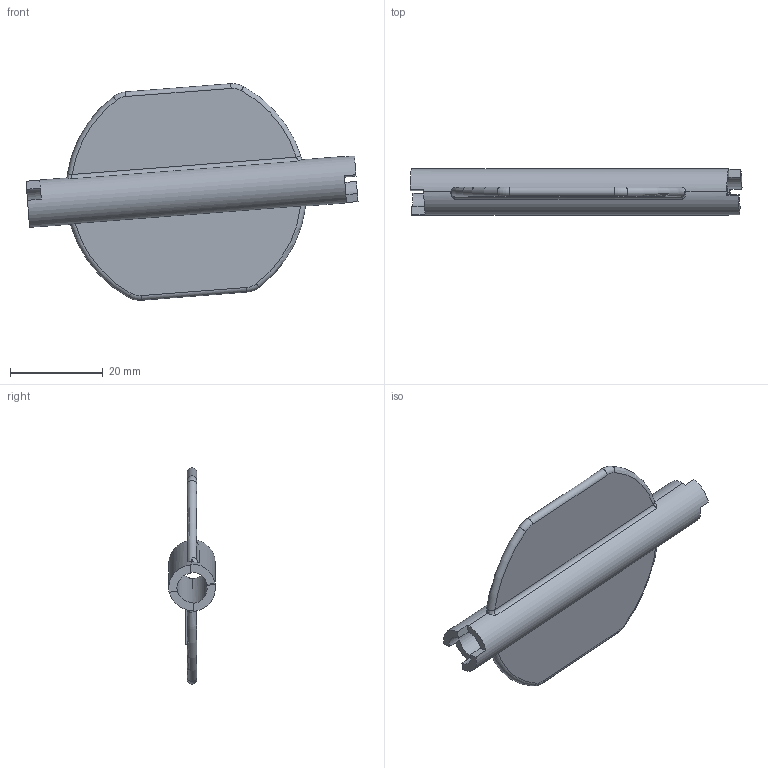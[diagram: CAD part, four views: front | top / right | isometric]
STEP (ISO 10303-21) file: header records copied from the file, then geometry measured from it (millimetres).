
FILE_DESCRIPTION((''),'2;1');
FILE_NAME('0000237100_PRT','2025-11-12T18:35:37',('Wyndorps'),(''),'CREO PARAMETRIC BY PTC INC, 2025010','CREO PARAMETRIC BY PTC INC, 2025010','');
FILE_SCHEMA(('CONFIG_CONTROL_DESIGN'));
Length unit declared in the file: millimetre
Products named in the file (1): 0000237100_PRT
Bounding box: 71.41 x 10 x 46.57 mm (x, y, z)
Volume: 6011.1 mm3; surface area: 6597.4 mm2
Topology: 1 solids, 1 shells, 97 faces, 265 edges, 174 vertices
Faces by surface type: plane 61, extrusion 12, cylinder 12, torus 8, bspline 4
Entity records: 3490 total; most frequent: CARTESIAN_POINT 1037, ORIENTED_EDGE 530, DIRECTION 451, EDGE_CURVE 265, VECTOR 177, VERTEX_POINT 174, LINE 165, AXIS2_PLACEMENT_3D 137
